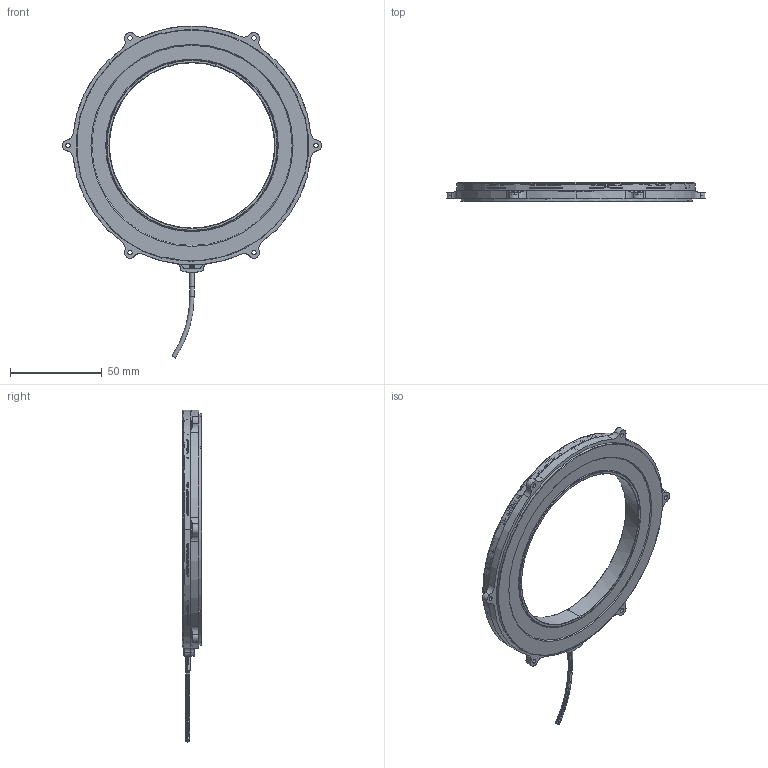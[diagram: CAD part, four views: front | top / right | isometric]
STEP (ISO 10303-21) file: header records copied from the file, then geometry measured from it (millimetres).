
FILE_DESCRIPTION (( 'STEP AP214' ), '1' );
FILE_NAME ('ICD DS-130-QR.STEP', '2022-03-27T08:50:50', ( '' ), ( '' ), 'SwSTEP 2.0', 'SolidWorks 2019', '' );
FILE_SCHEMA (( 'AUTOMOTIVE_DESIGN' ));
Length unit declared in the file: millimetre
Products named in the file (6): ICD DS-130-QR; MP-03688_10 mm rotor height; MP-03675_10 mm rotor height; MP-03674; DS-130-QR Cable 6 wires_Upper cable; DS-130-QR Core_10 mm rotor height
Assembly tree (5 placements, depth 3):
  ICD DS-130-QR
    MP-03674
    MP-03675_10 mm rotor height
    DS-130-QR Core_10 mm rotor height
      DS-130-QR Cable 6 wires_Upper cable
      MP-03688_10 mm rotor height
Bounding box: 140.98 x 10.5 x 180.73 mm (x, y, z)
Volume: 29986.6 mm3; surface area: 53685 mm2
Topology: 10 solids, 10 shells, 1182 faces, 3115 edges, 2031 vertices
Faces by surface type: cylinder 464, plane 393, bspline 131, torus 98, cone 96
Entity records: 58364 total; most frequent: CARTESIAN_POINT 27627, ORIENTED_EDGE 6230, DIRECTION 6055, EDGE_CURVE 3115, AXIS2_PLACEMENT_3D 2385, VERTEX_POINT 2031, CIRCLE 1325, VECTOR 1285
